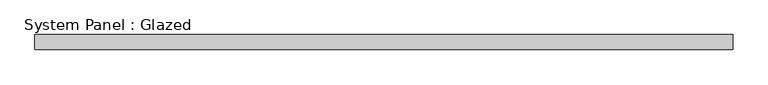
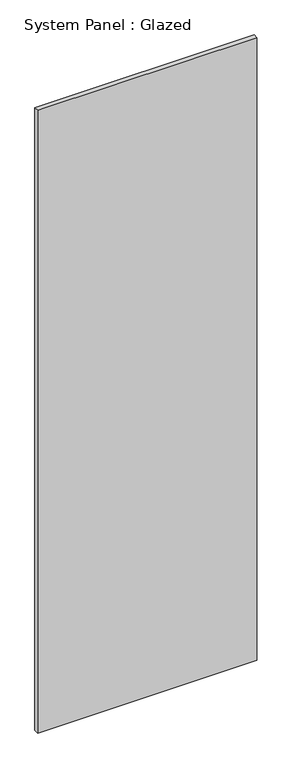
"""IFC4 building model written with IfcOpenShell, lengths in millimetres: plate geometry, System Panel : Glazed."""

import ifcopenshell
import ifcopenshell.guid

model = None  # the IFC model being written
_history = None  # IfcOwnerHistory: only IFC2X3 demands one
_inside = {}  # id of a spatial element -> (the spatial element, [elements in it])
_under = {}  # id of a project, library or spatial element -> (it, [spatial elements below it])
_declared = {}  # id of a project -> (the project, [libraries it declares])
_typed = {}  # id of a type object -> (the type object, [elements of that type])
_made_of = {}  # id of a material, layer set ... -> (it, [elements and type objects made of it])


def new_model(schema):
    """Start an empty IFC model of exactly this schema.

    Asked for "IFC4X3", IfcOpenShell would pick the latest addendum, in which some entities
    have other attributes; the version numbers below select the first issue.
    IFC2X3 requires an IfcOwnerHistory on every rooted entity: one is made here for all.
    """
    global model, _history
    if schema == "IFC4X3":
        model = ifcopenshell.file(schema_version=(4, 3, 0, 0))
    else:
        model = ifcopenshell.file(schema=schema)
    _inside.clear()
    _under.clear()
    _declared.clear()
    _typed.clear()
    _made_of.clear()
    _history = None
    if model.schema == "IFC2X3":
        org = make("IfcOrganization", Name="unknown")
        user = make(
            "IfcPersonAndOrganization",
            ThePerson=make("IfcPerson", FamilyName="unknown"),
            TheOrganization=org,
        )
        app = make(
            "IfcApplication",
            ApplicationDeveloper=org,
            Version="unknown",
            ApplicationFullName="unknown",
            ApplicationIdentifier="unknown",
        )
        _history = make(
            "IfcOwnerHistory",
            OwningUser=user,
            OwningApplication=app,
            ChangeAction="ADDED",
            CreationDate=0,
        )
    return model


def make(cls, **values):
    """One entity of the class cls with the attributes given. An attribute that is None is left unset."""
    return model.create_entity(
        cls, **{name: value for name, value in values.items() if value is not None}
    )


def rooted(cls, **values):
    """An entity with a GlobalId (a new one), such as an element, a storey or a relation."""
    return make(cls, GlobalId=ifcopenshell.guid.new(), OwnerHistory=_history, **values)


def si_unit(unit_type, name, prefix=None):
    """IfcSIUnit, for example si_unit("LENGTHUNIT", "METRE", prefix="MILLI")."""
    return make("IfcSIUnit", UnitType=unit_type, Prefix=prefix, Name=name)


def assignment(units):
    """IfcUnitAssignment: the units of a project."""
    return None if units is None else make("IfcUnitAssignment", Units=units)


def point(xyz):
    """IfcCartesianPoint."""
    return None if xyz is None else make("IfcCartesianPoint", Coordinates=xyz)


def direction(xyz):
    """IfcDirection."""
    return None if xyz is None else make("IfcDirection", DirectionRatios=xyz)


def frame(location, z_axis=None, x_axis=None):
    """IfcAxis2Placement3D, a coordinate frame: its origin and axes. An axis left out is left unset."""
    return make(
        "IfcAxis2Placement3D",
        Location=point(location),
        Axis=direction(z_axis),
        RefDirection=direction(x_axis),
    )


def origin():
    """The frame at (0, 0, 0) with its axes left unset."""
    return frame((0.0, 0.0, 0.0))


def origin_with_axes():
    """The frame at (0, 0, 0) with the z axis (0, 0, 1) and the x axis (1, 0, 0) written out."""
    return frame((0.0, 0.0, 0.0), z_axis=(0.0, 0.0, 1.0), x_axis=(1.0, 0.0, 0.0))


def place(relative_to, where):
    """IfcLocalPlacement: puts the frame where relative to a parent placement (None: the world)."""
    return make(
        "IfcLocalPlacement", PlacementRelTo=relative_to, RelativePlacement=where
    )


def context(
    kind, dimensions, precision=None, world=None, true_north=None, identifier=None
):
    """IfcGeometricRepresentationContext, for example the 3D "Model" context."""
    return make(
        "IfcGeometricRepresentationContext",
        ContextIdentifier=identifier,
        ContextType=kind,
        CoordinateSpaceDimension=dimensions,
        Precision=precision,
        WorldCoordinateSystem=world,
        TrueNorth=true_north,
    )


def project(units=None, contexts=None):
    """IfcProject with its units and contexts."""
    return rooted(
        "IfcProject",
        Name="project",
        RepresentationContexts=contexts,
        UnitsInContext=assignment(units),
    )


def spatial(cls, under=None, at=None, **own):
    """A site, building, storey or space (cls), placed at a placement, below another one or the project."""
    s = rooted(cls, ObjectPlacement=at, **own)
    if under is not None:
        _under.setdefault(under.id(), (under, []))[1].append(s)
    return s


def polyline(points):
    """IfcPolyline through the points."""
    return make("IfcPolyline", Points=[point(p) for p in points])


def outline(outer, holes=None, kind="AREA"):
    """IfcArbitraryClosedProfileDef: a profile drawn as a closed curve; with holes, ...WithVoids."""
    if holes is None:
        return make("IfcArbitraryClosedProfileDef", ProfileType=kind, OuterCurve=outer)
    return make(
        "IfcArbitraryProfileDefWithVoids",
        ProfileType=kind,
        OuterCurve=outer,
        InnerCurves=holes,
    )


def extrude(swept, where, along, depth):
    """IfcExtrudedAreaSolid: the profile swept, set in the frame where, extruded along a direction by depth."""
    return make(
        "IfcExtrudedAreaSolid",
        SweptArea=swept,
        Position=where,
        ExtrudedDirection=direction(along),
        Depth=depth,
    )


def shape(context_of_items, identifier, shape_type, items):
    """IfcShapeRepresentation: the items that make up one representation, for example the "Body"."""
    return make(
        "IfcShapeRepresentation",
        ContextOfItems=context_of_items,
        RepresentationIdentifier=identifier,
        RepresentationType=shape_type,
        Items=items,
    )


def source(mapping_origin, context_of_items, identifier, shape_type, items):
    """IfcRepresentationMap: a shape defined once, which mapped items show again and again."""
    return make(
        "IfcRepresentationMap",
        MappingOrigin=mapping_origin,
        MappedRepresentation=shape(context_of_items, identifier, shape_type, items),
    )


def transform(
    local_origin,
    x_axis=None,
    y_axis=None,
    z_axis=None,
    scale=None,
    scale2=None,
    scale3=None,
    uniform=True,
):
    """IfcCartesianTransformationOperator3D, or its non-uniform kind. x_axis, y_axis, z_axis: its Axis1, 2, 3."""
    if uniform:
        return make(
            "IfcCartesianTransformationOperator3D",
            Axis1=direction(x_axis),
            Axis2=direction(y_axis),
            LocalOrigin=point(local_origin),
            Scale=scale,
            Axis3=direction(z_axis),
        )
    return make(
        "IfcCartesianTransformationOperator3DnonUniform",
        Axis1=direction(x_axis),
        Axis2=direction(y_axis),
        LocalOrigin=point(local_origin),
        Scale=scale,
        Axis3=direction(z_axis),
        Scale2=scale2,
        Scale3=scale3,
    )


def mapped(mapping_source, mapping_target):
    """IfcMappedItem: shows the shape of a source again, moved by a transform."""
    return make(
        "IfcMappedItem", MappingSource=mapping_source, MappingTarget=mapping_target
    )


def made_of(thing, what):
    """Note that an element or type object is made of a material, layer set ...; save() writes the relation."""
    if what is not None:
        _made_of.setdefault(what.id(), (what, []))[1].append(thing)
    return thing


def element(
    cls,
    number,
    at=None,
    inside=None,
    cuts=None,
    type_object=None,
    material=None,
    context=None,
    identifier="Body",
    shape_type=None,
    held_by="IfcProductDefinitionShape",
    body=None,
    shapes=None,
    **own,
):
    """One element of the class cls, such as IfcWall. Its Tag is "e" and its number.

    at: its placement. inside: the storey or other place that contains it. cuts: it is an
    opening in that element (IfcRelVoidsElement). A single representation is given by context,
    identifier, shape_type and body (its items); several are given by shapes. held_by: the class
    of the entity that holds the representations. save() writes the other relations.
    """
    e = rooted(cls, Tag="e%d" % number, ObjectPlacement=at, **own)
    if body is not None:
        shapes = [shape(context, identifier, shape_type, body)]
    if shapes is not None:
        e.Representation = make(held_by, Representations=shapes)
    if inside is not None:
        _inside.setdefault(inside.id(), (inside, []))[1].append(e)
    if cuts is not None:
        rooted(
            "IfcRelVoidsElement", RelatingBuildingElement=cuts, RelatedOpeningElement=e
        )
    if type_object is not None:
        _typed.setdefault(type_object.id(), (type_object, []))[1].append(e)
    return made_of(e, material)


def aggregate(whole, parts):
    """IfcRelAggregates: a whole, such as a stair, and the parts it consists of."""
    return rooted("IfcRelAggregates", RelatingObject=whole, RelatedObjects=parts)


def save(model, path):
    """Write the relations noted so far, then the file.

    IfcRelAggregates (storeys below a building ...), IfcRelContainedInSpatialStructure (elements
    in a storey), IfcRelDefinesByType, IfcRelAssociatesMaterial and IfcRelDeclares: one each for
    every whole, place, type object, material and project.
    """
    for whole, parts in _under.values():
        aggregate(whole, parts)
    for where, things in _inside.values():
        rooted(
            "IfcRelContainedInSpatialStructure",
            RelatedElements=things,
            RelatingStructure=where,
        )
    for kind, things in _typed.values():
        rooted("IfcRelDefinesByType", RelatedObjects=things, RelatingType=kind)
    for what, things in _made_of.values():
        rooted("IfcRelAssociatesMaterial", RelatedObjects=things, RelatingMaterial=what)
    for by, libraries in _declared.values():
        rooted("IfcRelDeclares", RelatingContext=by, RelatedDefinitions=libraries)
    model.write(path)


def system_panel_glazed_2b276406(model_context):
    return source(origin(), model_context, "Body", "SweptSolid", [
        extrude(outline(polyline([(582.8391714, 24.5), (-582.8391714, 24.5), (-582.8391714, 49.5), (582.8391714, 49.5), (582.8391714, 24.5)])), origin_with_axes(), (0.0, 0.0, 1.0), 3500.0),
    ])


if __name__ == "__main__":
    model = new_model("IFC4")
    model_context = context("Model", 3, world=origin())
    ifc_project = project(units=[si_unit("LENGTHUNIT", "METRE", prefix="MILLI")], contexts=[model_context])
    site = spatial("IfcSite", under=ifc_project)
    building = spatial("IfcBuilding", under=site)
    placement = place(None, origin())
    system_panel_glazed_shape = system_panel_glazed_2b276406(model_context)
    element("IfcPlate", 1, ObjectType="System Panel : Glazed", at=placement, inside=building, context=model_context, shape_type="MappedRepresentation", body=[
        mapped(system_panel_glazed_shape, transform((0.0, 0.0, 0.0), x_axis=(1.0, 0.0, 0.0), y_axis=(0.0, 1.0, 0.0), z_axis=(0.0, 0.0, 1.0))),
    ])
    save(model, "model.ifc")
